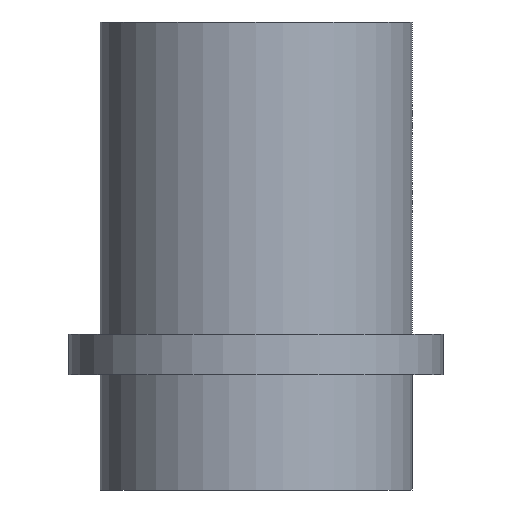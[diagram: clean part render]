
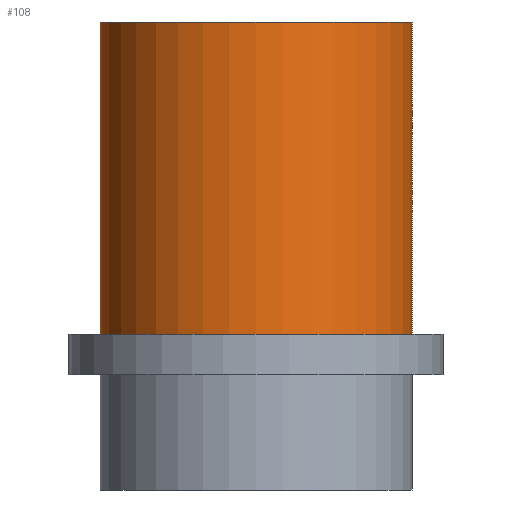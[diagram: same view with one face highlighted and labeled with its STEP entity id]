
A CAD part, front view. The second image highlights one B-rep face of the part: STEP entity #108.
In plain terms, the highlighted cylindrical face has radius 12.7 mm (diameter 25.4 mm), a full revolution.
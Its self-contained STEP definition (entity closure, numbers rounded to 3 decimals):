
#15=LINE('',#191,#19);
#19=VECTOR('',#155,12.7);
#23=CYLINDRICAL_SURFACE('',#132,12.7);
#32=FACE_OUTER_BOUND('',#41,.T.);
#41=EDGE_LOOP('',(#81,#82,#83,#84));
#51=CIRCLE('',#130,12.7);
#53=CIRCLE('',#133,12.7);
#59=VERTEX_POINT('',#185);
#61=VERTEX_POINT('',#190);
#67=EDGE_CURVE('',#59,#59,#51,.T.);
#69=EDGE_CURVE('',#59,#61,#15,.T.);
#70=EDGE_CURVE('',#61,#61,#53,.T.);
#81=ORIENTED_EDGE('',*,*,#67,.T.);
#82=ORIENTED_EDGE('',*,*,#69,.T.);
#83=ORIENTED_EDGE('',*,*,#70,.T.);
#84=ORIENTED_EDGE('',*,*,#69,.F.);
#108=ADVANCED_FACE('',(#32),#23,.T.);
#130=AXIS2_PLACEMENT_3D('',#186,#149,#150);
#132=AXIS2_PLACEMENT_3D('',#189,#153,#154);
#133=AXIS2_PLACEMENT_3D('',#192,#156,#157);
#149=DIRECTION('center_axis',(0.,0.,-1.));
#150=DIRECTION('ref_axis',(-1.,0.,0.));
#153=DIRECTION('center_axis',(0.,0.,-1.));
#154=DIRECTION('ref_axis',(-1.,0.,0.));
#155=DIRECTION('',(0.,0.,-1.));
#156=DIRECTION('center_axis',(0.,0.,1.));
#157=DIRECTION('ref_axis',(-1.,0.,0.));
#185=CARTESIAN_POINT('',(12.7,0.,38.1));
#186=CARTESIAN_POINT('Origin',(0.,0.,38.1));
#189=CARTESIAN_POINT('Origin',(0.,0.,38.1));
#190=CARTESIAN_POINT('',(12.7,0.,12.7));
#191=CARTESIAN_POINT('',(12.7,0.,38.1));
#192=CARTESIAN_POINT('Origin',(0.,0.,12.7));
